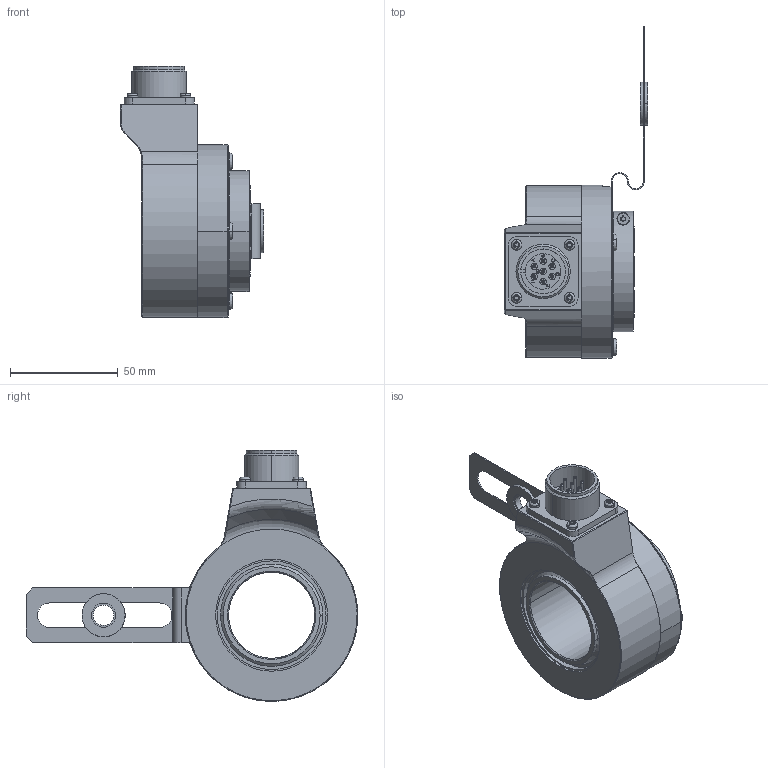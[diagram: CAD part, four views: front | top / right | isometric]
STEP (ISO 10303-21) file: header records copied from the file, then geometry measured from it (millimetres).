
FILE_DESCRIPTION (( 'STEP AP203' ), '1' );
FILE_NAME ('K80I.OXX.XXXXX.XH1D840.6XRCD.step', '2025-12-09T09:09:01', ( '' ), ( '' ), 'SwSTEP 2.0', 'SolidWorks 2021', '' );
FILE_SCHEMA (( 'CONFIG_CONTROL_DESIGN' ));
Length unit declared in the file: millimetre
Products named in the file (1): K80I.OXX.XXXXX.XH1D840.6XRCD
Bounding box: 66.5 x 154.07 x 116.58 mm (x, y, z)
Volume: 197586.6 mm3; surface area: 71405.3 mm2
Topology: 7 solids, 7 shells, 635 faces, 1613 edges, 1033 vertices
Faces by surface type: cylinder 297, plane 229, bspline 56, cone 37, torus 16
Entity records: 24071 total; most frequent: CARTESIAN_POINT 8529, DIRECTION 3269, ORIENTED_EDGE 3210, EDGE_CURVE 1605, AXIS2_PLACEMENT_3D 1248, VERTEX_POINT 1033, VECTOR 773, LINE 773
